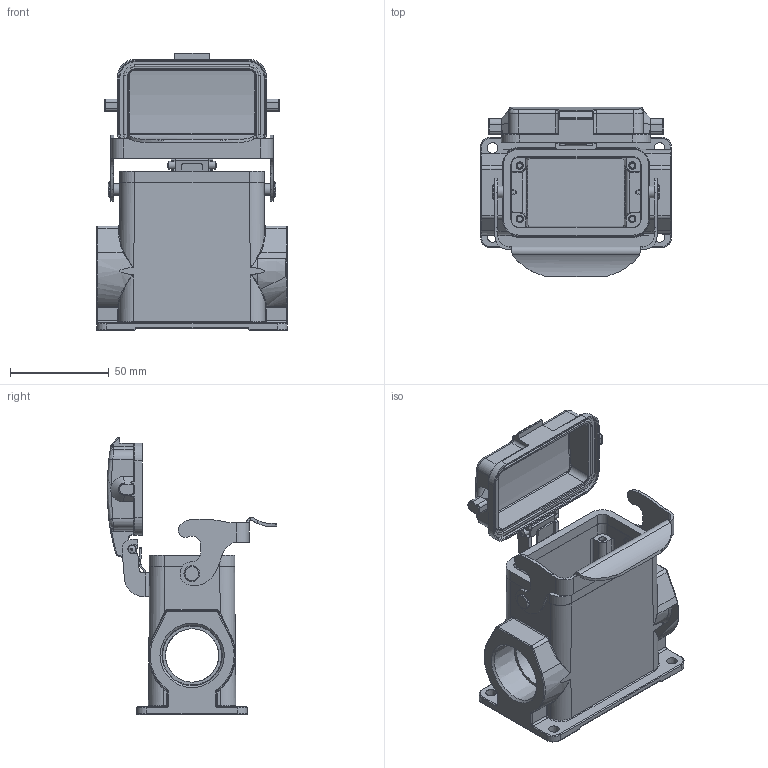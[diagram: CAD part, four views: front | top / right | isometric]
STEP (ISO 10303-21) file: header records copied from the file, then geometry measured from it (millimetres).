
FILE_DESCRIPTION (( 'STEP AP203' ), '1' );
FILE_NAME ('H10B-SDRH-LB-2M32.STEP', '2023-06-06T03:25:16', ( '' ), ( '' ), 'SwSTEP 2.0', 'SolidWorks 2016', '' );
FILE_SCHEMA (( 'CONFIG_CONTROL_DESIGN' ));
Length unit declared in the file: millimetre
Products named in the file (1): H10B-SDRH-LB-2M32
Bounding box: 96.5 x 85.93 x 140.4 mm (x, y, z)
Volume: 145572.8 mm3; surface area: 73509.9 mm2
Topology: 2 solids, 4 shells, 853 faces, 2152 edges, 1335 vertices
Faces by surface type: cylinder 342, plane 259, torus 105, bspline 85, cone 54, sphere 8
Full cylindrical faces by diameter (mm): 2.5 x2, 3.2 x2, 3.3 x2, 4 x3, 5.5 x2, 6 x2, 6.1 x2, 8 x2, 27 x2
Entity records: 88660 total; most frequent: CARTESIAN_POINT 69744, ORIENTED_EDGE 4142, DIRECTION 3537, EDGE_CURVE 2071, AXIS2_PLACEMENT_3D 1330, VERTEX_POINT 1312, EDGE_LOOP 963, FACE_OUTER_BOUND 878
